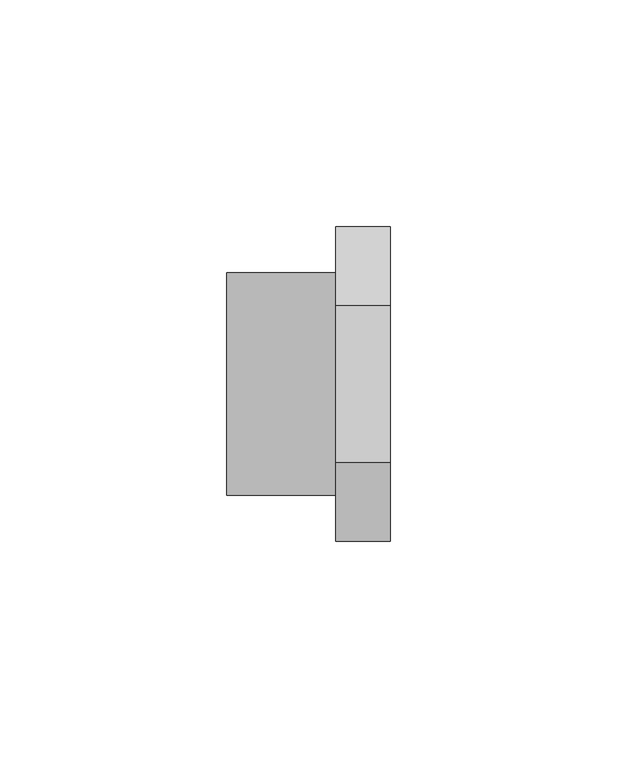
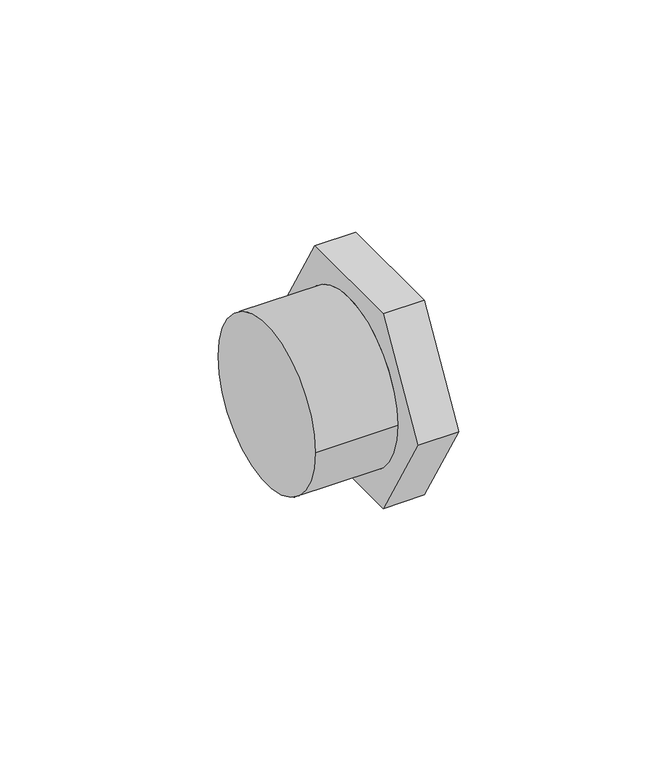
"""IFC4 building model written with IfcOpenShell, lengths in millimetres: pipe fitting geometry, 01011011 : Bouchons M."""

from ifc_helpers import new_model, si_unit, point, frame, origin, origin_2d, place, context, project, spatial, circle_curve, trimmed, segment, composite_curve, outline, extrude, source, transform, mapped, element, save
from ifc_brep_helpers import plane_surface, cylinder_surface, advanced_brep


def pipe_fitting_6dac94ff(model_context):
    return source(origin(), model_context, "Body", "SolidModel", [
        extrude(outline(composite_curve([segment(trimmed(circle_curve(origin_2d(), 24.525), [point((-24.525, 0.0))], [point((24.525, 0.0))], False, "CARTESIAN"), True, "CONTINUOUS"), segment(trimmed(circle_curve(origin_2d(), 24.525), [point((24.525, 0.0))], [point((-24.525, 0.0))], False, "CARTESIAN"), True, "CONTINUOUS")], self_intersect=False)), frame((0.0, 0.0, 0.0), z_axis=(1.0, 0.0, 0.0), x_axis=(0.0, 1.0, 0.0)), (0.0, 0.0, 1.0), 24.0),
        advanced_brep(
        [(36.0, -17.3205081, 30.0), (36.0, -34.6410162, 0.0), (36.0, -17.3205081, -30.0), (36.0, 17.3205081, -30.0), (36.0, 34.6410162, 0.0), (36.0, 17.3205081, 30.0), (24.0, -17.3205081, 30.0), (24.0, 17.3205081, 30.0), (24.0, 34.6410162, 0.0), (24.0, 17.3205081, -30.0), (24.0, -17.3205081, -30.0), (24.0, -34.6410162, 0.0), (24.0, 24.525, 0.0), (24.0, -24.525, 0.0), (0.0, -24.525, 0.0), (0.0, 24.525, 0.0)],
        [
            (0, 1),
            (1, 2),
            (2, 3),
            (3, 4),
            (4, 5),
            (5, 0),
            (6, 7),
            (7, 8),
            (8, 9),
            (9, 10),
            (10, 11),
            (11, 6),
            (12, 13, circle_curve(frame((24.0, 0.0, 0.0), z_axis=(1.0, 0.0, 0.0), x_axis=(0.0, 1.0, 0.0)), 24.525)),
            (13, 12, circle_curve(frame((24.0, 0.0, 0.0), z_axis=(1.0, 0.0, 0.0), x_axis=(0.0, 1.0, 0.0)), 24.525)),
            (0, 6),
            (11, 1),
            (10, 2),
            (9, 3),
            (8, 4),
            (7, 5),
            (14, 15, circle_curve(frame((0.0, 0.0, 0.0), z_axis=(-1.0, 0.0, 0.0), x_axis=(0.0, 1.0, 0.0)), 24.525)),
            (15, 14, circle_curve(frame((0.0, 0.0, 0.0), z_axis=(-1.0, 0.0, 0.0), x_axis=(0.0, 1.0, 0.0)), 24.525)),
            (14, 13),
            (12, 15),
        ],
        [
            plane_surface(frame((36.0, -17.3205081, 30.0), z_axis=(1.0, 0.0, 0.0), x_axis=(0.0, -0.500000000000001, -0.8660254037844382))),
            plane_surface(frame((24.0, -17.3205081, 30.0), z_axis=(-1.0, 0.0, 0.0), x_axis=(0.0, 0.500000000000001, 0.8660254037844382))),
            plane_surface(frame((36.0, -17.3205081, 30.0), z_axis=(0.0, -0.8660254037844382, 0.500000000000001), x_axis=(-1.0, 0.0, 0.0))),
            plane_surface(frame((36.0, -34.6410162, 0.0), z_axis=(0.0, -0.8660254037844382, -0.500000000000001), x_axis=(-1.0, 0.0, 0.0))),
            plane_surface(frame((36.0, -17.3205081, -30.0), z_axis=(0.0, 0.0, -1.0), x_axis=(-1.0, 0.0, 0.0))),
            plane_surface(frame((36.0, 17.3205081, -30.0), z_axis=(0.0, 0.8660254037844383, -0.5000000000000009), x_axis=(-1.0, 0.0, 0.0))),
            plane_surface(frame((36.0, 34.6410162, 0.0), z_axis=(0.0, 0.866025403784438, 0.500000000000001), x_axis=(-1.0, 0.0, 0.0))),
            plane_surface(frame((36.0, 17.3205081, 30.0), z_axis=(0.0, 0.0, 1.0), x_axis=(-1.0, 0.0, 0.0))),
            plane_surface(frame((0.0, 0.0, 0.0), z_axis=(-1.0, 0.0, 0.0), x_axis=(0.0, 0.0, 1.0))),
            cylinder_surface(frame((0.0, 0.0, 0.0), z_axis=(-1.0, 0.0, 0.0), x_axis=(0.0, 1.0, 0.0)), 24.525),
        ],
        [
            (0, [[1, 2, 3, 4, 5, 6]]),
            (1, [[7, 8, 9, 10, 11, 12], [13, 14]]),
            (2, [[-1, 15, -12, 16]]),
            (3, [[-2, -16, -11, 17]]),
            (4, [[-3, -17, -10, 18]]),
            (5, [[-4, -18, -9, 19]]),
            (6, [[-5, -19, -8, 20]]),
            (7, [[-6, -20, -7, -15]]),
            (8, [[21, 22]]),
            (9, [[-21, 23, -13, 24]]),
            (9, [[-22, -24, -14, -23]]),
        ],
    ),
    ])


if __name__ == "__main__":
    model = new_model("IFC4")
    model_context = context("Model", 3, world=origin())
    ifc_project = project(units=[si_unit("LENGTHUNIT", "METRE", prefix="MILLI")], contexts=[model_context])
    site = spatial("IfcSite", under=ifc_project)
    building = spatial("IfcBuilding", under=site)
    placement = place(None, origin())
    pipe_fitting_shape = pipe_fitting_6dac94ff(model_context)
    element("IfcPipeFitting", 1, ObjectType="01011011 : Bouchons M", at=placement, inside=building, context=model_context, shape_type="MappedRepresentation", body=[
        mapped(pipe_fitting_shape, transform((0.0, 0.0, 0.0), x_axis=(1.0, 0.0, 0.0), y_axis=(0.0, 1.0, 0.0), z_axis=(0.0, 0.0, 1.0))),
    ])
    save(model, "model.ifc")
